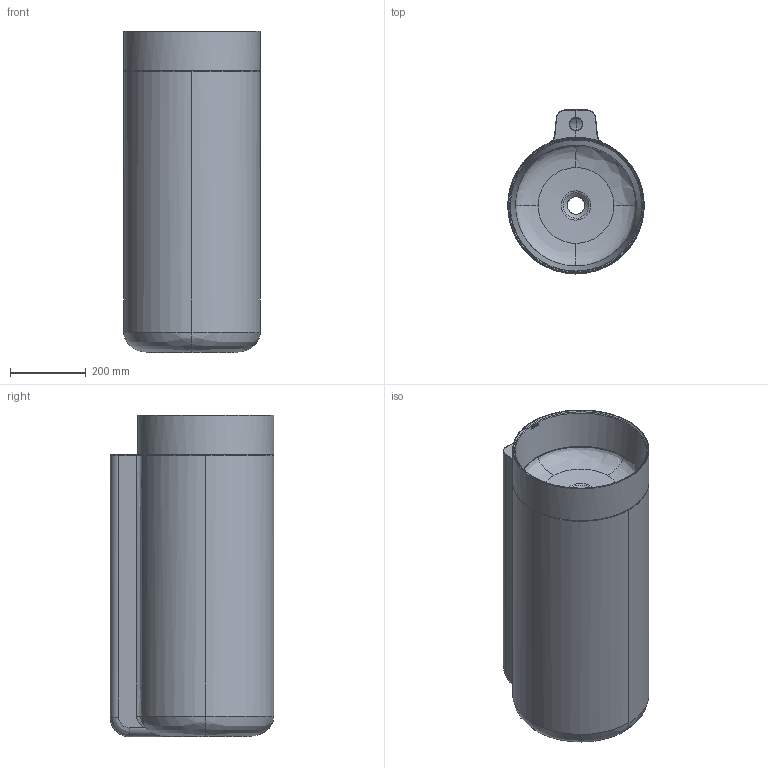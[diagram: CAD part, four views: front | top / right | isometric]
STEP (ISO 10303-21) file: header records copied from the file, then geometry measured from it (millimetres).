
FILE_DESCRIPTION(/* description */ (''),/* implementation_level */ '2;1');
FILE_NAME(/* name */ '6052_P~1',/* time_stamp */ '2023-11-13T14:47:03+01:00',/* author */ (''),/* organization */ (''),/* preprocessor_version */ 'ST-DEVELOPER v16.5',/* originating_system */ '',/* authorisation */ '');
FILE_SCHEMA (('CONFIG_CONTROL_DESIGN'));
Length unit declared in the file: millimetre
Products named in the file (1): Document
Bounding box: 360 x 432.3 x 850 mm (x, y, z)
Volume: 14876671.3 mm3; surface area: 2283990.8 mm2
Topology: 8 solids, 8 shells, 251 faces, 563 edges, 318 vertices
Faces by surface type: bspline 164, cylinder 46, plane 41
Full cylindrical faces by diameter (mm): 46 x1, 332 x1, 348 x1, 360 x1
Entity records: 15040 total; most frequent: CARTESIAN_POINT 11585, ORIENTED_EDGE 1122, EDGE_CURVE 561, VERTEX_POINT 318, B_SPLINE_CURVE_WITH_KNOTS 258, EDGE_LOOP 257, ADVANCED_FACE 251, FACE_OUTER_BOUND 251
